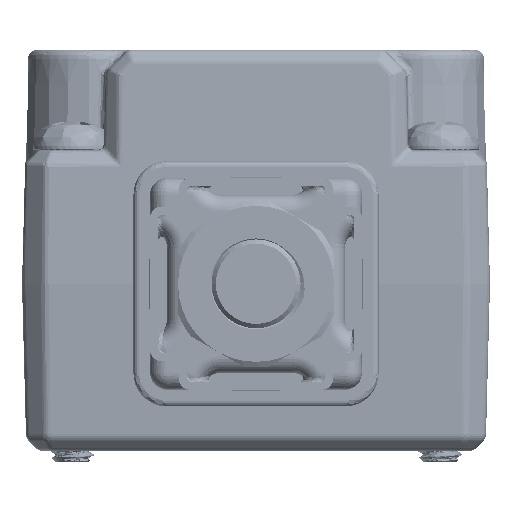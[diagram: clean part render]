
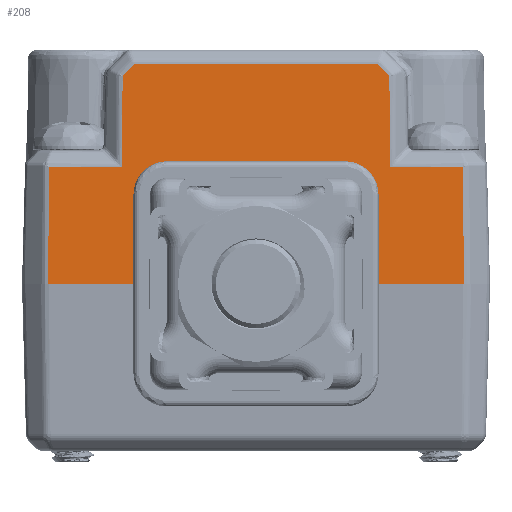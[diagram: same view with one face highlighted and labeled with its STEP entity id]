
A CAD part, front view. The second image highlights one B-rep face of the part: STEP entity #208.
In plain terms, the highlighted planar face has unit normal (0, -1, 0.026).
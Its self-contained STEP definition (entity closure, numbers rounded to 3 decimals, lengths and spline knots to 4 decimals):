
#208 = ADVANCED_FACE ( 'NONE', ( #131682 ), #204791, .T. ) ;
#6499 = EDGE_CURVE ( 'NONE', #49284, #158512, #8626, .T. ) ;
#8626 = LINE ( 'NONE', #73086, #102378 ) ;
#11300 = VECTOR ( 'NONE', #171845, 39.3701 ) ;
#12148 = LINE ( 'NONE', #33640, #177033 ) ;
#14596 = EDGE_CURVE ( 'NONE', #130270, #153680, #22634, .T. ) ;
#22634 = LINE ( 'NONE', #32502, #141797 ) ;
#28227 = ORIENTED_EDGE ( 'NONE', *, *, #163228, .T. ) ;
#30826 = VECTOR ( 'NONE', #125871, 39.3701 ) ;
#31690 = ORIENTED_EDGE ( 'NONE', *, *, #6499, .T. ) ;
#32502 = CARTESIAN_POINT ( 'NONE',  ( 11.696, 12.466, 15.9333 ) ) ;
#33470 = CARTESIAN_POINT ( 'NONE',  ( 12.9541, 12.4457, 15.1575 ) ) ;
#33640 = CARTESIAN_POINT ( 'NONE',  ( 12.9541, 12.4565, 15.5694 ) ) ;
#36162 = ORIENTED_EDGE ( 'NONE', *, *, #14596, .T. ) ;
#39423 = DIRECTION ( 'NONE',  ( -0.011, -0.026, -1. ) ) ;
#40585 = EDGE_CURVE ( 'NONE', #118429, #73419, #80928, .T. ) ;
#42192 = CARTESIAN_POINT ( 'NONE',  ( 11.3968, 12.4565, 15.5694 ) ) ;
#42948 = EDGE_CURVE ( 'NONE', #92518, #108401, #12148, .T. ) ;
#46042 = CARTESIAN_POINT ( 'NONE',  ( 12.4383, 12.4457, 15.1575 ) ) ;
#46974 = VERTEX_POINT ( 'NONE', #123742 ) ;
#47672 = DIRECTION ( 'NONE',  ( 1., 0., 0. ) ) ;
#49284 = VERTEX_POINT ( 'NONE', #209317 ) ;
#53893 = CARTESIAN_POINT ( 'NONE',  ( 11.696, 12.466, 15.9333 ) ) ;
#54438 = LINE ( 'NONE', #42192, #11300 ) ;
#58997 = CARTESIAN_POINT ( 'NONE',  ( 12.4383, 12.4457, 15.1575 ) ) ;
#64365 = CARTESIAN_POINT ( 'NONE',  ( 11.8163, 12.462, 15.7795 ) ) ;
#65055 = DIRECTION ( 'NONE',  ( -0.694, -0.019, -0.72 ) ) ;
#72669 = ORIENTED_EDGE ( 'NONE', *, *, #192516, .T. ) ;
#73086 = CARTESIAN_POINT ( 'NONE',  ( 12.9541, 12.4565, 15.5694 ) ) ;
#73419 = VERTEX_POINT ( 'NONE', #96862 ) ;
#73549 = LINE ( 'NONE', #209691, #124229 ) ;
#78285 = DIRECTION ( 'NONE',  ( -0.694, 0.019, 0.72 ) ) ;
#80928 = LINE ( 'NONE', #33470, #199991 ) ;
#81529 = ORIENTED_EDGE ( 'NONE', *, *, #162737, .T. ) ;
#82097 = ORIENTED_EDGE ( 'NONE', *, *, #133087, .T. ) ;
#83546 = LINE ( 'NONE', #200859, #169732 ) ;
#86758 = CARTESIAN_POINT ( 'NONE',  ( 12.5586, 12.466, 15.9333 ) ) ;
#87790 = EDGE_CURVE ( 'NONE', #73419, #200334, #191711, .T. ) ;
#88086 = CARTESIAN_POINT ( 'NONE',  ( 11.6527, 12.4565, 15.5694 ) ) ;
#90168 = DIRECTION ( 'NONE',  ( 0., -1., 0.026 ) ) ;
#90841 = CARTESIAN_POINT ( 'NONE',  ( 12.9541, 12.4457, 15.1575 ) ) ;
#92518 = VERTEX_POINT ( 'NONE', #88086 ) ;
#92726 = CARTESIAN_POINT ( 'NONE',  ( 12.8623, 12.4457, 15.1575 ) ) ;
#92857 = EDGE_LOOP ( 'NONE', ( #207715, #200902, #81529, #107862, #31690, #72669, #103654, #94901, #36162, #28227, #172171, #82097 ) ) ;
#94901 = ORIENTED_EDGE ( 'NONE', *, *, #108643, .F. ) ;
#96862 = CARTESIAN_POINT ( 'NONE',  ( 11.8163, 12.4457, 15.1575 ) ) ;
#97122 = DIRECTION ( 'NONE',  ( 1., 0., 0. ) ) ;
#102378 = VECTOR ( 'NONE', #187037, 39.3701 ) ;
#103654 = ORIENTED_EDGE ( 'NONE', *, *, #122309, .T. ) ;
#107862 = ORIENTED_EDGE ( 'NONE', *, *, #186063, .T. ) ;
#108401 = VERTEX_POINT ( 'NONE', #141519 ) ;
#108643 = EDGE_CURVE ( 'NONE', #130270, #124734, #150867, .T. ) ;
#109265 = VECTOR ( 'NONE', #78285, 39.3701 ) ;
#109510 = LINE ( 'NONE', #110276, #30826 ) ;
#110276 = CARTESIAN_POINT ( 'NONE',  ( 12.6019, 12.4565, 15.5694 ) ) ;
#118429 = VERTEX_POINT ( 'NONE', #185432 ) ;
#122309 = EDGE_CURVE ( 'NONE', #46974, #124734, #152354, .T. ) ;
#123742 = CARTESIAN_POINT ( 'NONE',  ( 12.5984, 12.465, 15.8919 ) ) ;
#124229 = VECTOR ( 'NONE', #97122, 39.3701 ) ;
#124734 = VERTEX_POINT ( 'NONE', #86758 ) ;
#125484 = VECTOR ( 'NONE', #189558, 39.3701 ) ;
#125871 = DIRECTION ( 'NONE',  ( -0.011, 0.026, 1. ) ) ;
#130270 = VERTEX_POINT ( 'NONE', #53893 ) ;
#131627 = VERTEX_POINT ( 'NONE', #92726 ) ;
#131682 = FACE_OUTER_BOUND ( 'NONE', #92857, .T. ) ;
#133087 = EDGE_CURVE ( 'NONE', #108401, #118429, #54438, .T. ) ;
#137618 = DIRECTION ( 'NONE',  ( -0.011, 0.026, 1. ) ) ;
#141519 = CARTESIAN_POINT ( 'NONE',  ( 11.3968, 12.4565, 15.5694 ) ) ;
#141797 = VECTOR ( 'NONE', #65055, 39.3701 ) ;
#145620 = DIRECTION ( 'NONE',  ( -1., 0., 0. ) ) ;
#150867 = LINE ( 'NONE', #158486, #125484 ) ;
#152354 = LINE ( 'NONE', #192977, #109265 ) ;
#153610 = VECTOR ( 'NONE', #137618, 39.3701 ) ;
#153680 = VERTEX_POINT ( 'NONE', #191691 ) ;
#155372 = DIRECTION ( 'NONE',  ( 0., -0.026, -1. ) ) ;
#158486 = CARTESIAN_POINT ( 'NONE',  ( 12.9541, 12.466, 15.9333 ) ) ;
#158512 = VERTEX_POINT ( 'NONE', #177848 ) ;
#162737 = EDGE_CURVE ( 'NONE', #200334, #131627, #73549, .T. ) ;
#163228 = EDGE_CURVE ( 'NONE', #153680, #92518, #83546, .T. ) ;
#169732 = VECTOR ( 'NONE', #39423, 39.3701 ) ;
#171845 = DIRECTION ( 'NONE',  ( -0.011, -0.026, -1. ) ) ;
#172171 = ORIENTED_EDGE ( 'NONE', *, *, #42948, .T. ) ;
#173924 = LINE ( 'NONE', #207640, #153610 ) ;
#176190 = AXIS2_PLACEMENT_3D ( 'NONE', #90841, #90168, #155372 ) ;
#177033 = VECTOR ( 'NONE', #145620, 39.3701 ) ;
#177848 = CARTESIAN_POINT ( 'NONE',  ( 12.6019, 12.4565, 15.5694 ) ) ;
#185432 = CARTESIAN_POINT ( 'NONE',  ( 11.3923, 12.4457, 15.1575 ) ) ;
#186063 = EDGE_CURVE ( 'NONE', #131627, #49284, #173924, .T. ) ;
#187037 = DIRECTION ( 'NONE',  ( -1., 0., 0. ) ) ;
#189558 = DIRECTION ( 'NONE',  ( 1., 0., 0. ) ) ;
#191691 = CARTESIAN_POINT ( 'NONE',  ( 11.6562, 12.465, 15.8919 ) ) ;
#191711 =( BOUNDED_CURVE ( )  B_SPLINE_CURVE ( 3, ( #193276, #64365, #206731, #46042 ),
 .UNSPECIFIED., .F., .F. ) 
 B_SPLINE_CURVE_WITH_KNOTS ( ( 4, 4 ),
 ( 1.5708, 4.7124 ),
 .UNSPECIFIED. ) 
 CURVE ( )  GEOMETRIC_REPRESENTATION_ITEM ( )  RATIONAL_B_SPLINE_CURVE ( ( 1., 0.333, 0.333, 1. ) ) 
 REPRESENTATION_ITEM ( '' )  );
#192516 = EDGE_CURVE ( 'NONE', #158512, #46974, #109510, .T. ) ;
#192977 = CARTESIAN_POINT ( 'NONE',  ( 12.5984, 12.465, 15.8919 ) ) ;
#193276 = CARTESIAN_POINT ( 'NONE',  ( 11.8163, 12.4457, 15.1575 ) ) ;
#199991 = VECTOR ( 'NONE', #47672, 39.3701 ) ;
#200334 = VERTEX_POINT ( 'NONE', #58997 ) ;
#200859 = CARTESIAN_POINT ( 'NONE',  ( 11.6562, 12.465, 15.8919 ) ) ;
#200902 = ORIENTED_EDGE ( 'NONE', *, *, #87790, .T. ) ;
#204791 = PLANE ( 'NONE',  #176190 ) ;
#206731 = CARTESIAN_POINT ( 'NONE',  ( 12.4383, 12.462, 15.7795 ) ) ;
#207640 = CARTESIAN_POINT ( 'NONE',  ( 12.8623, 12.4457, 15.1575 ) ) ;
#207715 = ORIENTED_EDGE ( 'NONE', *, *, #40585, .T. ) ;
#209317 = CARTESIAN_POINT ( 'NONE',  ( 12.8578, 12.4565, 15.5694 ) ) ;
#209691 = CARTESIAN_POINT ( 'NONE',  ( 12.9541, 12.4457, 15.1575 ) ) ;
